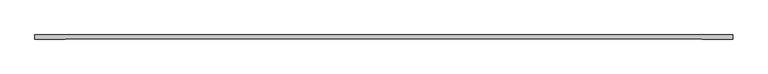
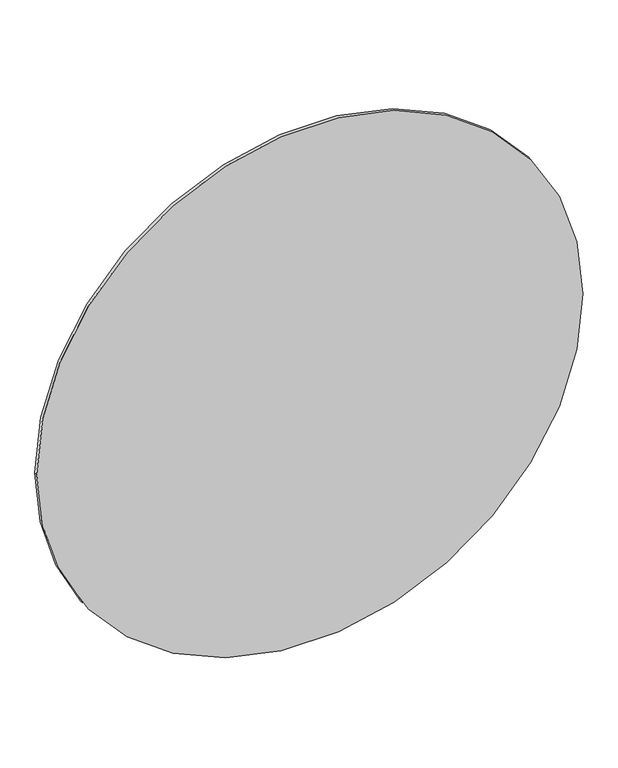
"""IFC4 building model written with IfcOpenShell, lengths in millimetres: proxy geometry, Ipart.TGPT.Base-09."""

from ifc_helpers import new_model, si_unit, point, frame, origin, origin_2d, place, context, project, spatial, circle_curve, trimmed, segment, composite_curve, outline, extrude, source, transform, mapped, element, save


def generic_models_ece21d19(model_context):
    return source(origin(), model_context, "Body", "SweptSolid", [
        extrude(outline(composite_curve([segment(trimmed(circle_curve(origin_2d(), 688.0), [point((0.0, -688.0))], [point((0.0, 688.0))], False, "CARTESIAN"), True, "CONTINUOUS"), segment(trimmed(circle_curve(origin_2d(), 688.0), [point((0.0, 688.0))], [point((0.0, -688.0))], False, "CARTESIAN"), True, "CONTINUOUS")], self_intersect=False)), frame((0.0, 502.0, 0.0), z_axis=(0.0, 1.0, 0.0), x_axis=(0.0, 0.0, 1.0)), (0.0, 0.0, 1.0), 8.0),
    ])


if __name__ == "__main__":
    model = new_model("IFC4")
    model_context = context("Model", 3, world=origin())
    ifc_project = project(units=[si_unit("LENGTHUNIT", "METRE", prefix="MILLI")], contexts=[model_context])
    site = spatial("IfcSite", under=ifc_project)
    building = spatial("IfcBuilding", under=site)
    placement = place(None, origin())
    generic_models_shape = generic_models_ece21d19(model_context)
    element("IfcBuildingElementProxy", 1, Name="Ipart.TGPT.Base-09", ObjectType="Ipart.TGPT.Base-09", at=placement, inside=building, context=model_context, shape_type="MappedRepresentation", body=[
        mapped(generic_models_shape, transform((0.0, 0.0, 0.0), x_axis=(1.0, 0.0, 0.0), y_axis=(0.0, 1.0, 0.0), z_axis=(0.0, 0.0, 1.0))),
    ])
    save(model, "model.ifc")
